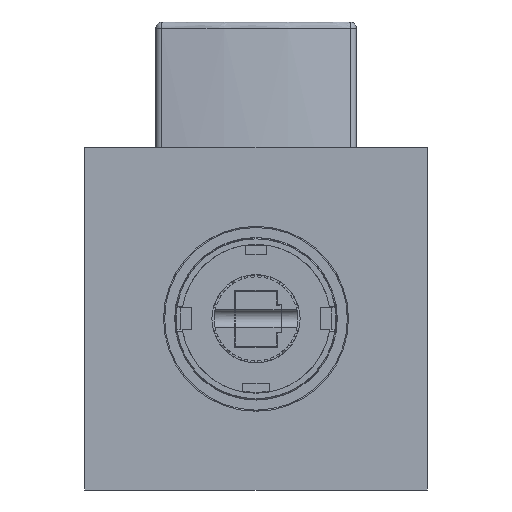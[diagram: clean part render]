
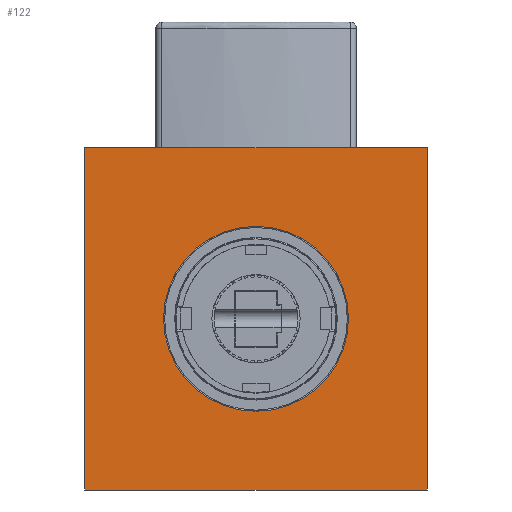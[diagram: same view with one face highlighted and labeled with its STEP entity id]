
A CAD part, front view. The second image highlights one B-rep face of the part: STEP entity #122.
In plain terms, the highlighted planar face has unit normal (0, -1, 0).
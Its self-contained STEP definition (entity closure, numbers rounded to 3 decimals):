
#1=DIRECTION('',(1.,0.,0.));
#2=VECTOR('',#1,75.);
#3=CARTESIAN_POINT('',(-37.5,0.,37.5));
#4=LINE('',#3,#2);
#5=DIRECTION('',(0.,0.,-1.));
#6=VECTOR('',#5,75.);
#7=CARTESIAN_POINT('',(37.5,0.,37.5));
#8=LINE('',#7,#6);
#9=DIRECTION('',(-1.,0.,0.));
#10=VECTOR('',#9,75.);
#11=CARTESIAN_POINT('',(37.5,0.,-37.5));
#12=LINE('',#11,#10);
#13=DIRECTION('',(0.,0.,1.));
#14=VECTOR('',#13,75.);
#15=CARTESIAN_POINT('',(-37.5,0.,-37.5));
#16=LINE('',#15,#14);
#17=CARTESIAN_POINT('',(0.,0.,0.));
#18=DIRECTION('',(0.,1.,0.));
#19=DIRECTION('',(1.,0.,0.));
#20=AXIS2_PLACEMENT_3D('',#17,#18,#19);
#22=CARTESIAN_POINT('',(0.,0.,0.));
#23=DIRECTION('',(0.,1.,0.));
#24=DIRECTION('',(-1.,0.,0.));
#25=AXIS2_PLACEMENT_3D('',#22,#23,#24);
#77=CARTESIAN_POINT('',(20.25,0.,0.));
#78=CARTESIAN_POINT('',(-20.25,0.,0.));
#79=VERTEX_POINT('',#77);
#80=VERTEX_POINT('',#78);
#85=CARTESIAN_POINT('',(-37.5,0.,37.5));
#86=CARTESIAN_POINT('',(37.5,0.,37.5));
#87=VERTEX_POINT('',#85);
#88=VERTEX_POINT('',#86);
#89=CARTESIAN_POINT('',(37.5,0.,-37.5));
#90=VERTEX_POINT('',#89);
#91=CARTESIAN_POINT('',(-37.5,0.,-37.5));
#92=VERTEX_POINT('',#91);
#101=CARTESIAN_POINT('',(0.,0.,0.));
#102=DIRECTION('',(0.,1.,0.));
#103=DIRECTION('',(1.,0.,0.));
#104=AXIS2_PLACEMENT_3D('',#101,#102,#103);
#105=PLANE('',#104);
#107=ORIENTED_EDGE('',*,*,#106,.T.);
#109=ORIENTED_EDGE('',*,*,#108,.T.);
#111=ORIENTED_EDGE('',*,*,#110,.T.);
#113=ORIENTED_EDGE('',*,*,#112,.T.);
#114=EDGE_LOOP('',(#107,#109,#111,#113));
#115=FACE_OUTER_BOUND('',#114,.F.);
#117=ORIENTED_EDGE('',*,*,#116,.F.);
#119=ORIENTED_EDGE('',*,*,#118,.F.);
#120=EDGE_LOOP('',(#117,#119));
#121=FACE_BOUND('',#120,.F.);
#122=ADVANCED_FACE('',(#115,#121),#105,.F.);
#21=CIRCLE('',#20,20.25);
#26=CIRCLE('',#25,20.25);
#106=EDGE_CURVE('',#87,#88,#4,.T.);
#108=EDGE_CURVE('',#88,#90,#8,.T.);
#110=EDGE_CURVE('',#90,#92,#12,.T.);
#112=EDGE_CURVE('',#92,#87,#16,.T.);
#116=EDGE_CURVE('',#79,#80,#21,.T.);
#118=EDGE_CURVE('',#80,#79,#26,.T.);
